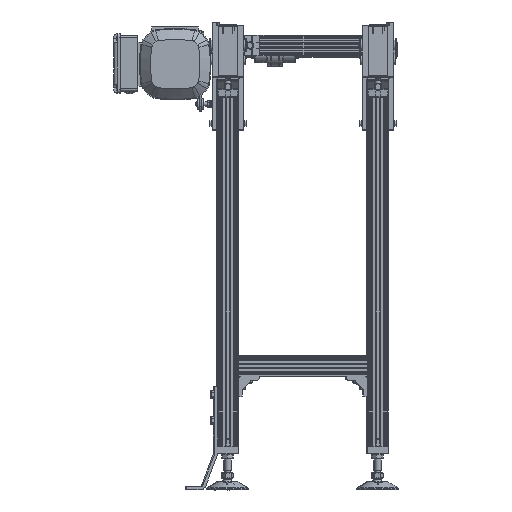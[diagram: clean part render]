
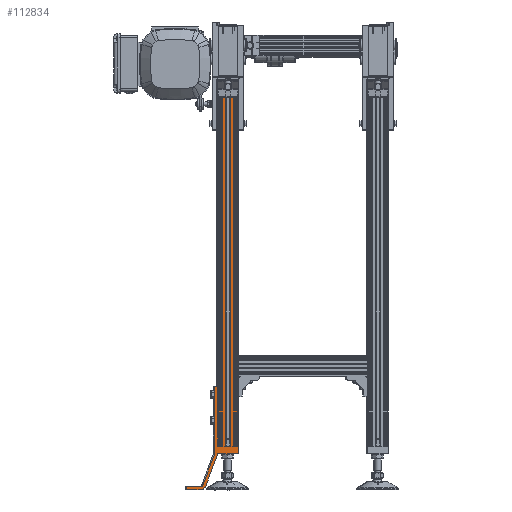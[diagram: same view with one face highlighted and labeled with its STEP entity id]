
A CAD part, left-side view. The second image highlights one B-rep face of the part: STEP entity #112834.
In plain terms, the highlighted planar face has unit normal (-1, 0, 0).
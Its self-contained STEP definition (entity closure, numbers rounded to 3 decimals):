
#5723=CIRCLE('',#120496,12.);
#5724=CIRCLE('',#120497,6.);
#5725=CIRCLE('',#120498,12.);
#5726=CIRCLE('',#120499,12.);
#10155=FACE_OUTER_BOUND('',#16423,.T.);
#16423=EDGE_LOOP('',(#86598,#86599,#86600,#86601,#86602,#86603,#86604,#86605,
#86606,#86607,#86608,#86609,#86610,#86611,#86612,#86613,#86614,#86615,#86616,
#86617,#86618,#86619,#86620,#86621));
#27205=LINE('',#176130,#38672);
#27370=LINE('',#176780,#38837);
#27371=LINE('',#176781,#38838);
#27395=LINE('',#176850,#38862);
#27396=LINE('',#176852,#38863);
#27397=LINE('',#176854,#38864);
#27398=LINE('',#176856,#38865);
#27399=LINE('',#176858,#38866);
#27400=LINE('',#176862,#38867);
#27401=LINE('',#176866,#38868);
#27402=LINE('',#176868,#38869);
#27403=LINE('',#176870,#38870);
#27404=LINE('',#176874,#38871);
#27405=LINE('',#176878,#38872);
#27406=LINE('',#176879,#38873);
#27407=LINE('',#176881,#38874);
#27408=LINE('',#176882,#38875);
#27409=LINE('',#176884,#38876);
#27410=LINE('',#176886,#38877);
#27411=LINE('',#176887,#38878);
#38672=VECTOR('',#141721,15.);
#38837=VECTOR('',#142100,13.45);
#38838=VECTOR('',#142101,13.45);
#38862=VECTOR('',#142179,675.);
#38863=VECTOR('',#142180,1.);
#38864=VECTOR('',#142181,115.);
#38865=VECTOR('',#142182,6.);
#38866=VECTOR('',#142183,128.703);
#38867=VECTOR('',#142186,62.015);
#38868=VECTOR('',#142189,25.951);
#38869=VECTOR('',#142190,6.);
#38870=VECTOR('',#142191,25.933);
#38871=VECTOR('',#142194,63.225);
#38872=VECTOR('',#142197,1.249);
#38873=VECTOR('',#142198,40.);
#38874=VECTOR('',#142199,1.);
#38875=VECTOR('',#142200,675.);
#38876=VECTOR('',#142201,675.);
#38877=VECTOR('',#142202,11.1);
#38878=VECTOR('',#142203,675.);
#49268=VERTEX_POINT('',#176127);
#49269=VERTEX_POINT('',#176129);
#49389=VERTEX_POINT('',#176563);
#49392=VERTEX_POINT('',#176568);
#49394=VERTEX_POINT('',#176574);
#49398=VERTEX_POINT('',#176583);
#49449=VERTEX_POINT('',#176849);
#49450=VERTEX_POINT('',#176851);
#49451=VERTEX_POINT('',#176853);
#49452=VERTEX_POINT('',#176855);
#49453=VERTEX_POINT('',#176857);
#49454=VERTEX_POINT('',#176859);
#49455=VERTEX_POINT('',#176861);
#49456=VERTEX_POINT('',#176863);
#49457=VERTEX_POINT('',#176865);
#49458=VERTEX_POINT('',#176867);
#49459=VERTEX_POINT('',#176869);
#49460=VERTEX_POINT('',#176871);
#49461=VERTEX_POINT('',#176873);
#49462=VERTEX_POINT('',#176875);
#49463=VERTEX_POINT('',#176877);
#49464=VERTEX_POINT('',#176880);
#49465=VERTEX_POINT('',#176883);
#49466=VERTEX_POINT('',#176885);
#62559=EDGE_CURVE('',#49268,#49269,#27205,.T.);
#62783=EDGE_CURVE('',#49389,#49394,#27370,.T.);
#62784=EDGE_CURVE('',#49398,#49392,#27371,.T.);
#62813=EDGE_CURVE('',#49449,#49394,#27395,.T.);
#62814=EDGE_CURVE('',#49449,#49450,#27396,.T.);
#62815=EDGE_CURVE('',#49451,#49450,#27397,.T.);
#62816=EDGE_CURVE('',#49452,#49451,#27398,.T.);
#62817=EDGE_CURVE('',#49453,#49452,#27399,.T.);
#62818=EDGE_CURVE('',#49454,#49453,#5723,.T.);
#62819=EDGE_CURVE('',#49455,#49454,#27400,.T.);
#62820=EDGE_CURVE('',#49456,#49455,#5724,.T.);
#62821=EDGE_CURVE('',#49457,#49456,#27401,.T.);
#62822=EDGE_CURVE('',#49458,#49457,#27402,.T.);
#62823=EDGE_CURVE('',#49459,#49458,#27403,.T.);
#62824=EDGE_CURVE('',#49460,#49459,#5725,.T.);
#62825=EDGE_CURVE('',#49461,#49460,#27404,.T.);
#62826=EDGE_CURVE('',#49462,#49461,#5726,.T.);
#62827=EDGE_CURVE('',#49462,#49463,#27405,.T.);
#62828=EDGE_CURVE('',#49463,#49269,#27406,.T.);
#62829=EDGE_CURVE('',#49268,#49464,#27407,.T.);
#62830=EDGE_CURVE('',#49464,#49398,#27408,.T.);
#62831=EDGE_CURVE('',#49465,#49392,#27409,.T.);
#62832=EDGE_CURVE('',#49465,#49466,#27410,.T.);
#62833=EDGE_CURVE('',#49466,#49389,#27411,.T.);
#86598=ORIENTED_EDGE('',*,*,#62783,.T.);
#86599=ORIENTED_EDGE('',*,*,#62813,.F.);
#86600=ORIENTED_EDGE('',*,*,#62814,.T.);
#86601=ORIENTED_EDGE('',*,*,#62815,.F.);
#86602=ORIENTED_EDGE('',*,*,#62816,.F.);
#86603=ORIENTED_EDGE('',*,*,#62817,.F.);
#86604=ORIENTED_EDGE('',*,*,#62818,.F.);
#86605=ORIENTED_EDGE('',*,*,#62819,.F.);
#86606=ORIENTED_EDGE('',*,*,#62820,.F.);
#86607=ORIENTED_EDGE('',*,*,#62821,.F.);
#86608=ORIENTED_EDGE('',*,*,#62822,.F.);
#86609=ORIENTED_EDGE('',*,*,#62823,.F.);
#86610=ORIENTED_EDGE('',*,*,#62824,.F.);
#86611=ORIENTED_EDGE('',*,*,#62825,.F.);
#86612=ORIENTED_EDGE('',*,*,#62826,.F.);
#86613=ORIENTED_EDGE('',*,*,#62827,.T.);
#86614=ORIENTED_EDGE('',*,*,#62828,.T.);
#86615=ORIENTED_EDGE('',*,*,#62559,.F.);
#86616=ORIENTED_EDGE('',*,*,#62829,.T.);
#86617=ORIENTED_EDGE('',*,*,#62830,.T.);
#86618=ORIENTED_EDGE('',*,*,#62784,.T.);
#86619=ORIENTED_EDGE('',*,*,#62831,.F.);
#86620=ORIENTED_EDGE('',*,*,#62832,.T.);
#86621=ORIENTED_EDGE('',*,*,#62833,.T.);
#102278=PLANE('',#120495);
#112834=ADVANCED_FACE('',(#10155),#102278,.T.);
#120495=AXIS2_PLACEMENT_3D('',#176848,#142177,#142178);
#120496=AXIS2_PLACEMENT_3D('',#176860,#142184,#142185);
#120497=AXIS2_PLACEMENT_3D('',#176864,#142187,#142188);
#120498=AXIS2_PLACEMENT_3D('',#176872,#142192,#142193);
#120499=AXIS2_PLACEMENT_3D('',#176876,#142195,#142196);
#141721=DIRECTION('',(0.,0.,-1.));
#142100=DIRECTION('',(0.,1.,0.));
#142101=DIRECTION('',(0.,1.,0.));
#142177=DIRECTION('center_axis',(-1.,0.,0.));
#142178=DIRECTION('ref_axis',(0.,-1.,0.));
#142179=DIRECTION('',(0.,0.,1.));
#142180=DIRECTION('',(0.,1.,0.));
#142181=DIRECTION('',(0.,0.,-1.));
#142182=DIRECTION('',(0.,-1.,0.));
#142183=DIRECTION('',(0.,0.,1.));
#142184=DIRECTION('center_axis',(-1.,0.,0.));
#142185=DIRECTION('ref_axis',(0.,1.,0.));
#142186=DIRECTION('',(0.,-0.353,0.936));
#142187=DIRECTION('center_axis',(-1.,0.,0.));
#142188=DIRECTION('ref_axis',(0.,0.977,0.214));
#142189=DIRECTION('',(0.,-1.,0.));
#142190=DIRECTION('',(0.,0.,1.));
#142191=DIRECTION('',(0.,1.,0.));
#142192=DIRECTION('center_axis',(1.,0.,0.));
#142193=DIRECTION('ref_axis',(0.,-0.977,
-0.212));
#142194=DIRECTION('',(0.,0.349,-0.937));
#142195=DIRECTION('center_axis',(1.,0.,0.));
#142196=DIRECTION('ref_axis',(0.,-1.,0.));
#142197=DIRECTION('',(0.,0.,-1.));
#142198=DIRECTION('',(0.,-1.,0.));
#142199=DIRECTION('',(0.,1.,0.));
#142200=DIRECTION('',(0.,0.,1.));
#142201=DIRECTION('',(0.,0.,1.));
#142202=DIRECTION('',(0.,1.,0.));
#142203=DIRECTION('',(0.,0.,1.));
#176127=CARTESIAN_POINT('',(203.,125.,-715.));
#176129=CARTESIAN_POINT('',(203.,125.,-730.));
#176130=CARTESIAN_POINT('',(203.,125.,-715.));
#176563=CARTESIAN_POINT('',(203.,150.55,-40.));
#176568=CARTESIAN_POINT('',(203.,139.45,-40.));
#176574=CARTESIAN_POINT('',(203.,164.,-40.));
#176583=CARTESIAN_POINT('',(203.,126.,-40.));
#176780=CARTESIAN_POINT('',(203.,154.5,-40.));
#176781=CARTESIAN_POINT('',(203.,154.5,-40.));
#176848=CARTESIAN_POINT('Origin',(203.,164.,-715.));
#176849=CARTESIAN_POINT('',(203.,164.,-715.));
#176850=CARTESIAN_POINT('',(203.,164.,-715.));
#176851=CARTESIAN_POINT('',(203.,165.,-715.));
#176852=CARTESIAN_POINT('',(203.,125.,-715.));
#176853=CARTESIAN_POINT('',(203.,165.,-600.));
#176854=CARTESIAN_POINT('',(203.,165.,-600.));
#176855=CARTESIAN_POINT('',(203.,171.,-600.));
#176856=CARTESIAN_POINT('',(203.,171.,-600.));
#176857=CARTESIAN_POINT('',(203.,171.,-728.703));
#176858=CARTESIAN_POINT('',(203.,171.,-728.703));
#176859=CARTESIAN_POINT('',(203.,171.277,-731.267));
#176860=CARTESIAN_POINT('Origin',(203.,183.,-728.703));
#176861=CARTESIAN_POINT('',(203.,193.188,-789.282));
#176862=CARTESIAN_POINT('',(203.,193.188,-789.282));
#176863=CARTESIAN_POINT('',(203.,199.049,-794.));
#176864=CARTESIAN_POINT('Origin',(203.,199.049,-788.));
#176865=CARTESIAN_POINT('',(203.,225.,-794.));
#176866=CARTESIAN_POINT('',(203.,225.,-794.));
#176867=CARTESIAN_POINT('',(203.,225.,-800.));
#176868=CARTESIAN_POINT('',(203.,225.,-800.));
#176869=CARTESIAN_POINT('',(203.,199.067,-800.));
#176870=CARTESIAN_POINT('',(203.,199.067,-800.));
#176871=CARTESIAN_POINT('',(203.,187.34,-790.543));
#176872=CARTESIAN_POINT('Origin',(203.,199.067,-788.));
#176873=CARTESIAN_POINT('',(203.,165.273,-731.294));
#176874=CARTESIAN_POINT('',(203.,165.273,-731.294));
#176875=CARTESIAN_POINT('',(203.,165.,-728.751));
#176876=CARTESIAN_POINT('Origin',(203.,177.,-728.751));
#176877=CARTESIAN_POINT('',(203.,165.,-730.));
#176878=CARTESIAN_POINT('',(203.,165.,-715.));
#176879=CARTESIAN_POINT('',(203.,125.,-730.));
#176880=CARTESIAN_POINT('',(203.,126.,-715.));
#176881=CARTESIAN_POINT('',(203.,125.,-715.));
#176882=CARTESIAN_POINT('',(203.,126.,-715.));
#176883=CARTESIAN_POINT('',(203.,139.45,-715.));
#176884=CARTESIAN_POINT('',(203.,139.45,-715.));
#176885=CARTESIAN_POINT('',(203.,150.55,-715.));
#176886=CARTESIAN_POINT('',(203.,125.,-715.));
#176887=CARTESIAN_POINT('',(203.,150.55,-715.));
